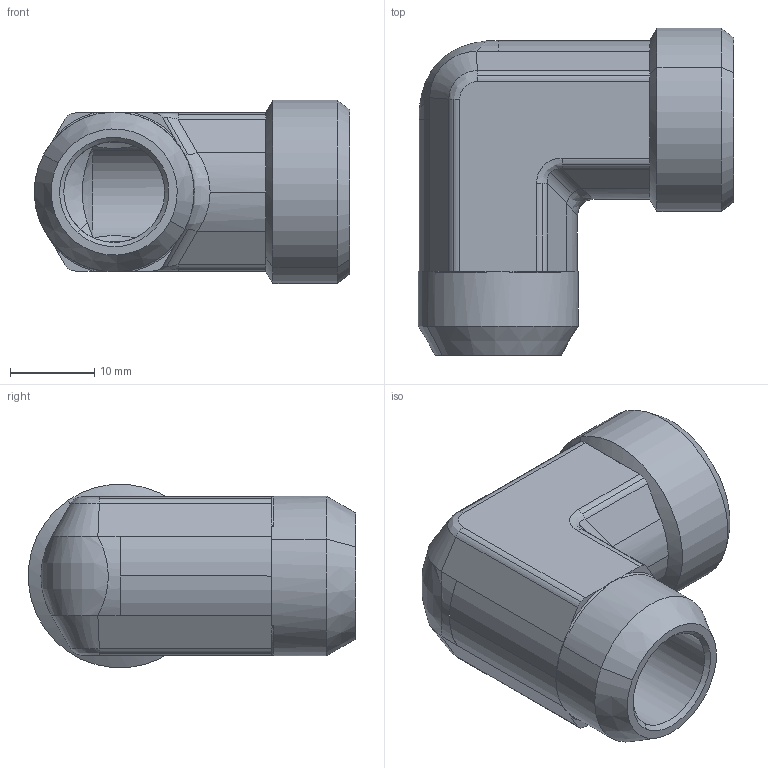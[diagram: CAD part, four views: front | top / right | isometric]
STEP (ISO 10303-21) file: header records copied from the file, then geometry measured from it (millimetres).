
FILE_DESCRIPTION((''),'2;1');
FILE_NAME('105808.stp','2007-10-31T14:43:10',(''),(''),'AutoCAD STEP 2000i','AutoCAD 2000i',', , ');
FILE_SCHEMA(('CONFIG_CONTROL_DESIGN'));
Length unit declared in the file: millimetre
Products named in the file (2): 105808.0; 3090#0
Assembly tree (1 placements, depth 2):
  105808.0
    3090#0
Bounding box: 37.5 x 38.89 x 21.77 mm (x, y, z)
Volume: 9912.3 mm3; surface area: 5946.8 mm2
Topology: 1 solids, 1 shells, 105 faces, 253 edges, 151 vertices
Faces by surface type: cylinder 42, plane 29, cone 18, bspline 16
Entity records: 4297 total; most frequent: CARTESIAN_POINT 1754, DIRECTION 534, ORIENTED_EDGE 506, EDGE_CURVE 253, AXIS2_PLACEMENT_3D 217, VERTEX_POINT 151, EDGE_LOOP 108, CIRCLE 107
